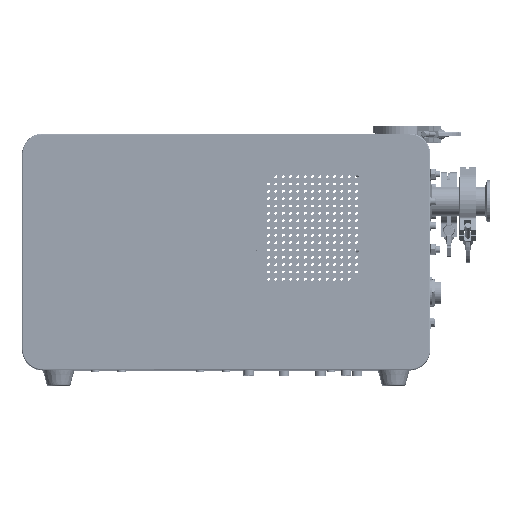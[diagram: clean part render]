
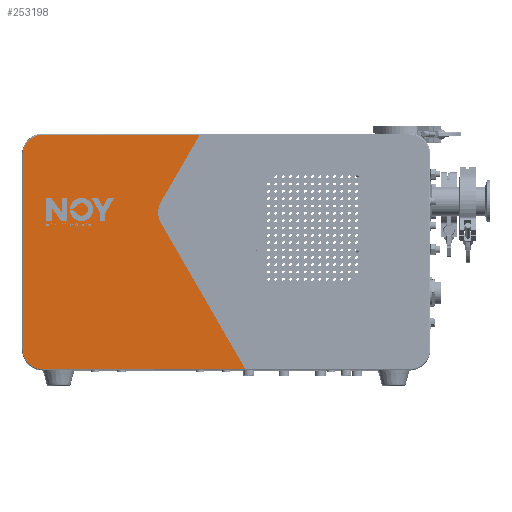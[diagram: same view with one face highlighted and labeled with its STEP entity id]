
A CAD part, top view. The second image highlights one B-rep face of the part: STEP entity #253198.
In plain terms, the highlighted planar face has unit normal (0, 0, 1).
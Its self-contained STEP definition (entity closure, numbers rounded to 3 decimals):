
#30564 = ORIENTED_EDGE ( 'NONE', *, *, #221549, .T. ) ;
#33295 = ORIENTED_EDGE ( 'NONE', *, *, #167675, .F. ) ;
#46406 = VERTEX_POINT ( 'NONE', #244002 ) ;
#53543 = ORIENTED_EDGE ( 'NONE', *, *, #288412, .F. ) ;
#56064 = VERTEX_POINT ( 'NONE', #468391 ) ;
#71877 = DIRECTION ( 'NONE',  ( -1., 0., 0. ) ) ;
#72998 = CIRCLE ( 'NONE', #111979, 20. ) ;
#81237 = DIRECTION ( 'NONE',  ( -1., 0., 0. ) ) ;
#81941 = VECTOR ( 'NONE', #93214, 1000. ) ;
#93214 = DIRECTION ( 'NONE',  ( 0., -1., 0. ) ) ;
#97457 = CARTESIAN_POINT ( 'NONE',  ( -202.5, -9., 135. ) ) ;
#111586 = ORIENTED_EDGE ( 'NONE', *, *, #402811, .T. ) ;
#111979 = AXIS2_PLACEMENT_3D ( 'NONE', #369294, #254785, #410663 ) ;
#120469 = EDGE_CURVE ( 'NONE', #56064, #281335, #242434, .T. ) ;
#125525 = DIRECTION ( 'NONE',  ( 0.5, -0.866, 0. ) ) ;
#127262 = ORIENTED_EDGE ( 'NONE', *, *, #435922, .T. ) ;
#130349 = LINE ( 'NONE', #438904, #236106 ) ;
#145162 = CARTESIAN_POINT ( 'NONE',  ( -182.5, 215., 135. ) ) ;
#146400 = CARTESIAN_POINT ( 'NONE',  ( -69.821, 130.6, 135. ) ) ;
#161428 = AXIS2_PLACEMENT_3D ( 'NONE', #256975, #405655, #71877 ) ;
#162674 = VERTEX_POINT ( 'NONE', #145162 ) ;
#167675 = EDGE_CURVE ( 'NONE', #281335, #175838, #72998, .T. ) ;
#168981 = PLANE ( 'NONE',  #209227 ) ;
#175838 = VERTEX_POINT ( 'NONE', #146400 ) ;
#190510 = VERTEX_POINT ( 'NONE', #323798 ) ;
#195697 = CARTESIAN_POINT ( 'NONE',  ( -182.5, 196., 135. ) ) ;
#205943 = DIRECTION ( 'NONE',  ( -0.5, -0.866, 0. ) ) ;
#209227 = AXIS2_PLACEMENT_3D ( 'NONE', #280934, #463775, #385837 ) ;
#221549 = EDGE_CURVE ( 'NONE', #321739, #46406, #356092, .T. ) ;
#227422 = DIRECTION ( 'NONE',  ( 0., 0., 1. ) ) ;
#233767 = VECTOR ( 'NONE', #205943, 1000. ) ;
#236106 = VECTOR ( 'NONE', #125525, 1000. ) ;
#236147 = ORIENTED_EDGE ( 'NONE', *, *, #480800, .T. ) ;
#242434 = LINE ( 'NONE', #317949, #233767 ) ;
#243563 = ORIENTED_EDGE ( 'NONE', *, *, #403370, .T. ) ;
#244002 = CARTESIAN_POINT ( 'NONE',  ( -182.5, -9., 135. ) ) ;
#253179 = DIRECTION ( 'NONE',  ( 1., 0., 0. ) ) ;
#253198 = ADVANCED_FACE ( 'NONE', ( #358872 ), #168981, .F. ) ;
#254785 = DIRECTION ( 'NONE',  ( 0., 0., 1. ) ) ;
#256975 = CARTESIAN_POINT ( 'NONE',  ( -182.5, 10., 135. ) ) ;
#258570 = DIRECTION ( 'NONE',  ( -1., 0., 0. ) ) ;
#280934 = CARTESIAN_POINT ( 'NONE',  ( -202.5, 216., 135. ) ) ;
#281335 = VERTEX_POINT ( 'NONE', #308439 ) ;
#285745 = CARTESIAN_POINT ( 'NONE',  ( -201.5, 10., 135. ) ) ;
#288412 = EDGE_CURVE ( 'NONE', #175838, #350543, #130349, .T. ) ;
#308439 = CARTESIAN_POINT ( 'NONE',  ( -69.821, 150.6, 135. ) ) ;
#317949 = CARTESIAN_POINT ( 'NONE',  ( -32.062, 216., 135. ) ) ;
#319693 = CARTESIAN_POINT ( 'NONE',  ( -201.5, 216., 135. ) ) ;
#321739 = VERTEX_POINT ( 'NONE', #285745 ) ;
#323798 = CARTESIAN_POINT ( 'NONE',  ( -201.5, 196., 135. ) ) ;
#326721 = CIRCLE ( 'NONE', #443620, 19. ) ;
#334814 = EDGE_LOOP ( 'NONE', ( #243563, #53543, #33295, #340534, #236147, #127262, #111586, #30564 ) ) ;
#340534 = ORIENTED_EDGE ( 'NONE', *, *, #120469, .F. ) ;
#343424 = VECTOR ( 'NONE', #258570, 1000. ) ;
#350543 = VERTEX_POINT ( 'NONE', #397436 ) ;
#356092 = CIRCLE ( 'NONE', #161428, 19. ) ;
#358872 = FACE_OUTER_BOUND ( 'NONE', #334814, .T. ) ;
#362568 = VECTOR ( 'NONE', #253179, 1000. ) ;
#368267 = CARTESIAN_POINT ( 'NONE',  ( -182.5, 215., 135. ) ) ;
#369294 = CARTESIAN_POINT ( 'NONE',  ( -52.5, 140.6, 135. ) ) ;
#385837 = DIRECTION ( 'NONE',  ( 0., -1., 0. ) ) ;
#392822 = LINE ( 'NONE', #319693, #81941 ) ;
#397436 = CARTESIAN_POINT ( 'NONE',  ( 10.778, -9., 135. ) ) ;
#402811 = EDGE_CURVE ( 'NONE', #190510, #321739, #392822, .T. ) ;
#403370 = EDGE_CURVE ( 'NONE', #46406, #350543, #438404, .T. ) ;
#405655 = DIRECTION ( 'NONE',  ( 0., 0., 1. ) ) ;
#410663 = DIRECTION ( 'NONE',  ( -1., 0., 0. ) ) ;
#435922 = EDGE_CURVE ( 'NONE', #162674, #190510, #326721, .T. ) ;
#438404 = LINE ( 'NONE', #97457, #362568 ) ;
#438904 = CARTESIAN_POINT ( 'NONE',  ( -69.821, 130.6, 135. ) ) ;
#443620 = AXIS2_PLACEMENT_3D ( 'NONE', #195697, #227422, #81237 ) ;
#463775 = DIRECTION ( 'NONE',  ( 0., 0., -1. ) ) ;
#468391 = CARTESIAN_POINT ( 'NONE',  ( -32.639, 215., 135. ) ) ;
#480438 = LINE ( 'NONE', #368267, #343424 ) ;
#480800 = EDGE_CURVE ( 'NONE', #56064, #162674, #480438, .T. ) ;
